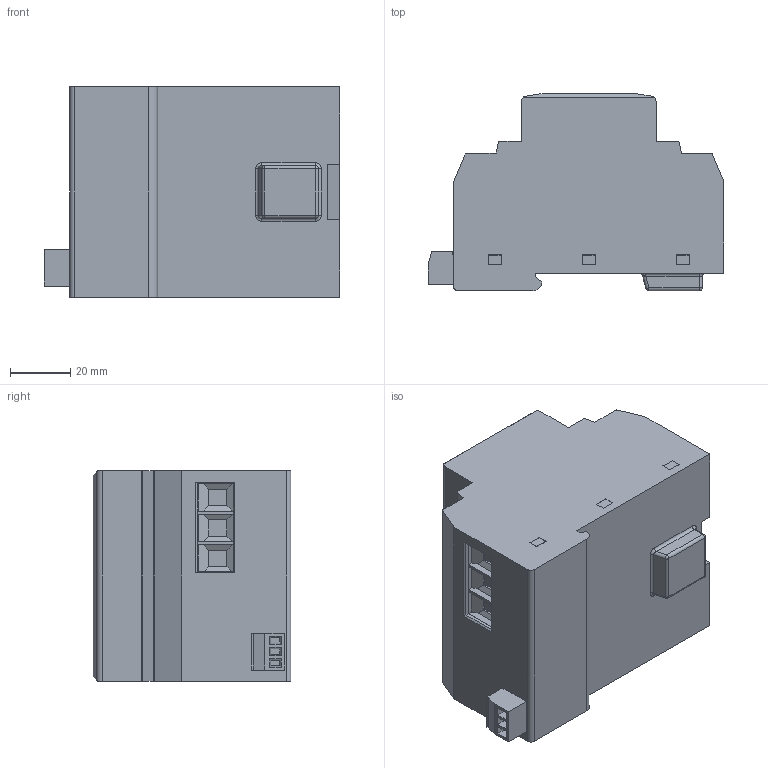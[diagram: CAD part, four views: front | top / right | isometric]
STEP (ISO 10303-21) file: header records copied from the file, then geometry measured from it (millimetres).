
FILE_DESCRIPTION(/* description */ (''),/* implementation_level */ '2;1');
FILE_NAME(/* name */ 'K:\PROJEKTY ROZPRACOVANÉ\MODELY DO KATALOGU\HSAF\3D - STEP\HSAF 4M S.stp',/* time_stamp */ '2020-03-25T09:05:46+01:00',/* author */ ('M Koliska'),/* organization */ (''),/* preprocessor_version */ 'ST-DEVELOPER v18',/* originating_system */ 'Autodesk Inventor 2020',/* authorisation */ '');
FILE_SCHEMA (('AUTOMOTIVE_DESIGN { 1 0 10303 214 3 1 1 }'));
Length unit declared in the file: millimetre
Products named in the file (6): HSAF25, 32 S; OBAL 4M; MKDSP 10_2-10.16 (RAL 2012); MKDSP 10_3-10.16 (RAL 2012); KONEKTOR SAMEC; KONEKTOR DEGSON 15EDGRC 3.81 (OBRÁCENÉ VÝV
ODY)
Assembly tree (5 placements, depth 2):
  HSAF25, 32 S
    OBAL 4M
    MKDSP 10_2-10.16 (RAL 2012)
    MKDSP 10_3-10.16 (RAL 2012)
    KONEKTOR SAMEC
    KONEKTOR DEGSON 15EDGRC 3.81 (OBRÁCENÉ VÝV
ODY)
Bounding box: 98.5 x 65.8 x 70 mm (x, y, z)
Volume: 335169.6 mm3; surface area: 47158.6 mm2
Topology: 5 solids, 10 shells, 874 faces, 2203 edges, 1438 vertices
Faces by surface type: plane 706, cylinder 132, cone 22, torus 8, sphere 4, bspline 2
Full cylindrical faces by diameter (mm): 0.457 x1, 0.968 x3, 1 x6, 1.5 x10, 1.9 x3, 2 x3, 2.5 x3, 5 x5, 5.6 x5
Entity records: 26955 total; most frequent: CARTESIAN_POINT 4814, ORIENTED_EDGE 4406, DIRECTION 4394, EDGE_CURVE 2203, LINE 1738, VECTOR 1738, VERTEX_POINT 1438, AXIS2_PLACEMENT_3D 1328
